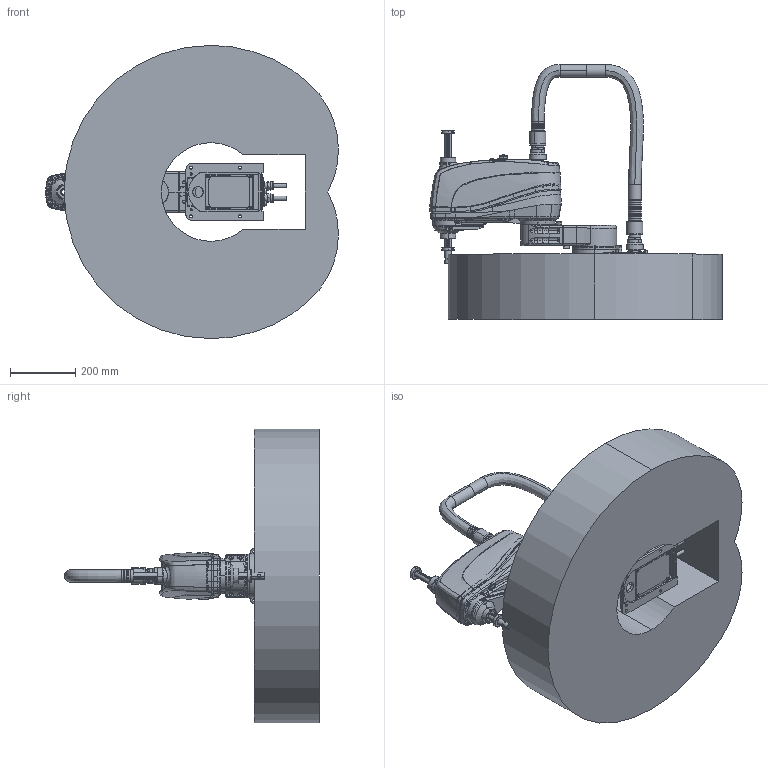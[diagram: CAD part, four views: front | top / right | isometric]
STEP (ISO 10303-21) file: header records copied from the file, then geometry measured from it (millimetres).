
FILE_DESCRIPTION (( 'STEP AP214' ), '1' );
FILE_NAME ('Rebel-S6 0.45_p00.STEP', '2016-11-10T10:37:32', ( '' ), ( '' ), 'SwSTEP 2.0', 'SolidWorks 2014', '' );
FILE_SCHEMA (( 'AUTOMOTIVE_DESIGN' ));
Length unit declared in the file: millimetre
Products named in the file (17): Operation Area Rebel-S6 0.45; Rebel-S6 0.45_p17; Rebel-S6 0.45_p14; Rebel-S6 0.45_p15; Rebel-S6 0.45_p13; Rebel-S6 0.45_p12; Rebel-S6 0.45_p10; Rebel-S6 0.45_p09; Rebel-S6 0.45_p08; Rebel-S6 0.45_p07; Rebel-S6 0.45_p06; Rebel-S6 0.45_p05; Rebel-S6 0.45_p04; Rebel-S6 0.45_p03; Rebel-S6 0.45_p02; Rebel-S6 0.45_p01; Rebel-S6 0.45_p00
Assembly tree (19 placements, depth 2):
  Rebel-S6 0.45_p00
    Rebel-S6 0.45_p01
    Rebel-S6 0.45_p02
    Rebel-S6 0.45_p03
    Rebel-S6 0.45_p04
    Rebel-S6 0.45_p05  x2
    Rebel-S6 0.45_p06
    Rebel-S6 0.45_p07
    Rebel-S6 0.45_p08
    Rebel-S6 0.45_p09
    Rebel-S6 0.45_p10  x2
    Rebel-S6 0.45_p12
    Rebel-S6 0.45_p13
    Rebel-S6 0.45_p15
    Rebel-S6 0.45_p14
    Rebel-S6 0.45_p17  x2
    Operation Area Rebel-S6 0.45
Bounding box: 899.02 x 782.5 x 900 mm (x, y, z)
Volume: 107043046.6 mm3; surface area: 3400770.4 mm2
Topology: 21 solids, 21 shells, 3087 faces, 7833 edges, 4964 vertices
Faces by surface type: plane 1184, cylinder 867, bspline 585, cone 451
Entity records: 315685 total; most frequent: CARTESIAN_POINT 217059, ORIENTED_EDGE 14860, DIRECTION 11522, EDGE_CURVE 7430, VERTEX_POINT 4763, AXIS2_PLACEMENT_3D 4111, EDGE_LOOP 3317, LINE 3300
